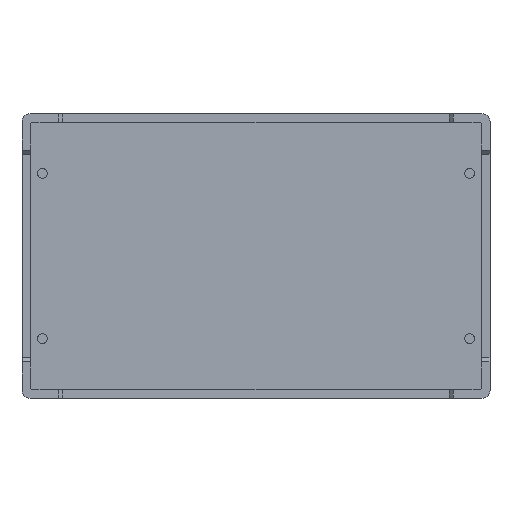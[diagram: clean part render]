
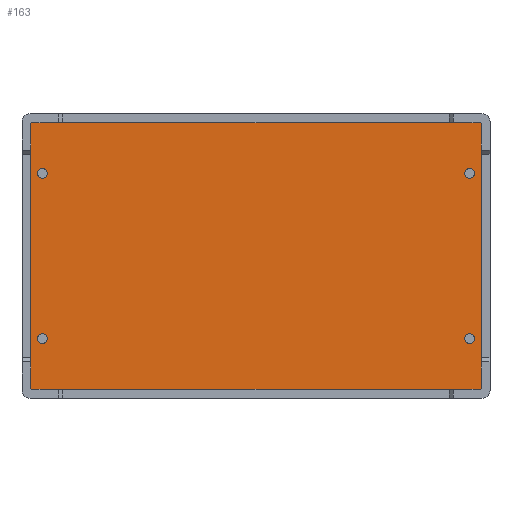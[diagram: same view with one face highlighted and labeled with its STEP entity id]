
A CAD part, front view. The second image highlights one B-rep face of the part: STEP entity #163.
In plain terms, the highlighted planar face has unit normal (0, -1, 0).
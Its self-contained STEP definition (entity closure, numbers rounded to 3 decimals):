
#16 = ORIENTED_EDGE ( 'NONE', *, *, #227, .F. ) ;
#29 = ORIENTED_EDGE ( 'NONE', *, *, #3202, .F. ) ;
#40 = EDGE_CURVE ( 'NONE', #2959, #2836, #873, .T. ) ;
#48 = ORIENTED_EDGE ( 'NONE', *, *, #235, .F. ) ;
#54 = ORIENTED_EDGE ( 'NONE', *, *, #245, .F. ) ;
#91 = EDGE_CURVE ( 'NONE', #3083, #2740, #677, .T. ) ;
#95 = CARTESIAN_POINT ( 'NONE',  ( -26.25, 1., -9.55 ) ) ;
#122 = ORIENTED_EDGE ( 'NONE', *, *, #252, .F. ) ;
#131 = ORIENTED_EDGE ( 'NONE', *, *, #1310, .F. ) ;
#140 = ORIENTED_EDGE ( 'NONE', *, *, #259, .F. ) ;
#149 = EDGE_CURVE ( 'NONE', #3212, #2975, #287, .T. ) ;
#163 = ADVANCED_FACE ( 'NONE', ( #221, #191, #205, #199, #300 ), #1407, .T. ) ;
#181 = ORIENTED_EDGE ( 'NONE', *, *, #4191, .F. ) ;
#191 = FACE_BOUND ( 'NONE', #1534, .T. ) ;
#195 = EDGE_CURVE ( 'NONE', #3411, #2372, #4214, .T. ) ;
#199 = FACE_BOUND ( 'NONE', #1602, .T. ) ;
#201 = ORIENTED_EDGE ( 'NONE', *, *, #195, .T. ) ;
#205 = FACE_BOUND ( 'NONE', #1621, .T. ) ;
#210 = ORIENTED_EDGE ( 'NONE', *, *, #272, .T. ) ;
#214 = AXIS2_PLACEMENT_3D ( 'NONE', #3276, #3012, #2941 ) ;
#217 = ORIENTED_EDGE ( 'NONE', *, *, #149, .T. ) ;
#221 = FACE_BOUND ( 'NONE', #1556, .T. ) ;
#227 = EDGE_CURVE ( 'NONE', #4279, #4048, #3622, .T. ) ;
#235 = EDGE_CURVE ( 'NONE', #3699, #4245, #3457, .T. ) ;
#245 = EDGE_CURVE ( 'NONE', #4245, #3699, #3717, .T. ) ;
#252 = EDGE_CURVE ( 'NONE', #4005, #3943, #3077, .T. ) ;
#256 = ORIENTED_EDGE ( 'NONE', *, *, #279, .T. ) ;
#259 = EDGE_CURVE ( 'NONE', #4313, #4310, #2901, .T. ) ;
#267 = ORIENTED_EDGE ( 'NONE', *, *, #91, .T. ) ;
#272 = EDGE_CURVE ( 'NONE', #2372, #3212, #2489, .T. ) ;
#273 = ORIENTED_EDGE ( 'NONE', *, *, #285, .T. ) ;
#278 = ORIENTED_EDGE ( 'NONE', *, *, #40, .T. ) ;
#279 = EDGE_CURVE ( 'NONE', #2975, #3083, #2398, .T. ) ;
#283 = ORIENTED_EDGE ( 'NONE', *, *, #294, .T. ) ;
#285 = EDGE_CURVE ( 'NONE', #2740, #2959, #2603, .T. ) ;
#287 = LINE ( 'NONE', #1497, #293 ) ;
#293 = VECTOR ( 'NONE', #1491, 1000. ) ;
#294 = EDGE_CURVE ( 'NONE', #2836, #3411, #2235, .T. ) ;
#300 = FACE_OUTER_BOUND ( 'NONE', #1405, .T. ) ;
#324 = CARTESIAN_POINT ( 'NONE',  ( 26.25, 1., -10.75 ) ) ;
#329 = AXIS2_PLACEMENT_3D ( 'NONE', #3491, #1507, #3798 ) ;
#394 = AXIS2_PLACEMENT_3D ( 'NONE', #4342, #4277, #4044 ) ;
#399 = CARTESIAN_POINT ( 'NONE',  ( -26.25, 1., 9.55 ) ) ;
#534 = VECTOR ( 'NONE', #2204, 1000. ) ;
#677 = LINE ( 'NONE', #2452, #534 ) ;
#737 = AXIS2_PLACEMENT_3D ( 'NONE', #2211, #2177, #2091 ) ;
#761 = AXIS2_PLACEMENT_3D ( 'NONE', #1500, #1495, #1025 ) ;
#810 = CARTESIAN_POINT ( 'NONE',  ( 27.55, 1., 16.4 ) ) ;
#815 = CARTESIAN_POINT ( 'NONE',  ( -27.55, 1., 16.3 ) ) ;
#816 = VECTOR ( 'NONE', #1505, 1000. ) ;
#828 = CARTESIAN_POINT ( 'NONE',  ( 27.65, 1., -16.3 ) ) ;
#866 = DIRECTION ( 'NONE',  ( 0., 0., -1. ) ) ;
#873 = LINE ( 'NONE', #1849, #816 ) ;
#897 = CARTESIAN_POINT ( 'NONE',  ( -26.25, 1., -10.75 ) ) ;
#903 = DIRECTION ( 'NONE',  ( 0., -1., 0. ) ) ;
#915 = CARTESIAN_POINT ( 'NONE',  ( -27.65, 1., 16.4 ) ) ;
#1025 = DIRECTION ( 'NONE',  ( 0., 0., -1. ) ) ;
#1064 = CARTESIAN_POINT ( 'NONE',  ( -27.65, 1., 16.3 ) ) ;
#1226 = AXIS2_PLACEMENT_3D ( 'NONE', #815, #4488, #4463 ) ;
#1310 = EDGE_CURVE ( 'NONE', #3943, #4005, #1937, .T. ) ;
#1338 = DIRECTION ( 'NONE',  ( 0., 0., -1. ) ) ;
#1389 = DIRECTION ( 'NONE',  ( 0., 0., -1. ) ) ;
#1405 = EDGE_LOOP ( 'NONE', ( #201, #210, #217, #256, #267, #273, #278, #283 ) ) ;
#1407 = PLANE ( 'NONE',  #2664 ) ;
#1427 = CARTESIAN_POINT ( 'NONE',  ( 0., 1., 0. ) ) ;
#1434 = CARTESIAN_POINT ( 'NONE',  ( 26.25, 1., 9.55 ) ) ;
#1444 = DIRECTION ( 'NONE',  ( 0., -1., 0. ) ) ;
#1491 = DIRECTION ( 'NONE',  ( 1., 0., 0. ) ) ;
#1495 = DIRECTION ( 'NONE',  ( 0., -1., 0. ) ) ;
#1497 = CARTESIAN_POINT ( 'NONE',  ( -27.65, 1., -16.4 ) ) ;
#1500 = CARTESIAN_POINT ( 'NONE',  ( -26.25, 1., -10.15 ) ) ;
#1505 = DIRECTION ( 'NONE',  ( -1., 0., 0. ) ) ;
#1507 = DIRECTION ( 'NONE',  ( 0., -1., 0. ) ) ;
#1528 = CARTESIAN_POINT ( 'NONE',  ( 26.25, 1., 10.75 ) ) ;
#1534 = EDGE_LOOP ( 'NONE', ( #48, #54 ) ) ;
#1549 = AXIS2_PLACEMENT_3D ( 'NONE', #3472, #3337, #3138 ) ;
#1556 = EDGE_LOOP ( 'NONE', ( #16, #29 ) ) ;
#1600 = DIRECTION ( 'NONE',  ( 0., -1., 0. ) ) ;
#1602 = EDGE_LOOP ( 'NONE', ( #140, #181 ) ) ;
#1621 = EDGE_LOOP ( 'NONE', ( #122, #131 ) ) ;
#1691 = CARTESIAN_POINT ( 'NONE',  ( 27.55, 1., -16.3 ) ) ;
#1849 = CARTESIAN_POINT ( 'NONE',  ( 27.65, 1., 16.4 ) ) ;
#1937 = CIRCLE ( 'NONE', #737, 0.6 ) ;
#2091 = DIRECTION ( 'NONE',  ( 0., 0., -1. ) ) ;
#2177 = DIRECTION ( 'NONE',  ( 0., -1., 0. ) ) ;
#2204 = DIRECTION ( 'NONE',  ( 0., 0., 1. ) ) ;
#2211 = CARTESIAN_POINT ( 'NONE',  ( -26.25, 1., -10.15 ) ) ;
#2235 = CIRCLE ( 'NONE', #1226, 0.1 ) ;
#2271 = CARTESIAN_POINT ( 'NONE',  ( 26.25, 1., -9.55 ) ) ;
#2329 = CIRCLE ( 'NONE', #329, 0.6 ) ;
#2332 = AXIS2_PLACEMENT_3D ( 'NONE', #2765, #2679, #2411 ) ;
#2349 = CARTESIAN_POINT ( 'NONE',  ( -27.55, 1., -16.4 ) ) ;
#2372 = VERTEX_POINT ( 'NONE', #2533 ) ;
#2398 = CIRCLE ( 'NONE', #4142, 0.1 ) ;
#2411 = DIRECTION ( 'NONE',  ( 0., 0., -1. ) ) ;
#2452 = CARTESIAN_POINT ( 'NONE',  ( 27.65, 1., -16.4 ) ) ;
#2489 = CIRCLE ( 'NONE', #3351, 0.1 ) ;
#2533 = CARTESIAN_POINT ( 'NONE',  ( -27.65, 1., -16.3 ) ) ;
#2603 = CIRCLE ( 'NONE', #394, 0.1 ) ;
#2607 = DIRECTION ( 'NONE',  ( 0., 0., -1. ) ) ;
#2615 = DIRECTION ( 'NONE',  ( 0., -1., 0. ) ) ;
#2628 = CARTESIAN_POINT ( 'NONE',  ( -26.25, 1., 10.75 ) ) ;
#2642 = CARTESIAN_POINT ( 'NONE',  ( 26.25, 1., -10.15 ) ) ;
#2664 = AXIS2_PLACEMENT_3D ( 'NONE', #1427, #1444, #1389 ) ;
#2679 = DIRECTION ( 'NONE',  ( 0., -1., 0. ) ) ;
#2740 = VERTEX_POINT ( 'NONE', #3236 ) ;
#2765 = CARTESIAN_POINT ( 'NONE',  ( 26.25, 1., 10.15 ) ) ;
#2836 = VERTEX_POINT ( 'NONE', #4433 ) ;
#2901 = CIRCLE ( 'NONE', #1549, 0.6 ) ;
#2941 = DIRECTION ( 'NONE',  ( 0., 0., -1. ) ) ;
#2959 = VERTEX_POINT ( 'NONE', #810 ) ;
#2975 = VERTEX_POINT ( 'NONE', #3583 ) ;
#2980 = DIRECTION ( 'NONE',  ( 0., 0., -1. ) ) ;
#3012 = DIRECTION ( 'NONE',  ( 0., -1., 0. ) ) ;
#3040 = CARTESIAN_POINT ( 'NONE',  ( 26.25, 1., 10.15 ) ) ;
#3051 = AXIS2_PLACEMENT_3D ( 'NONE', #3040, #903, #3338 ) ;
#3076 = DIRECTION ( 'NONE',  ( 0., -1., 0. ) ) ;
#3077 = CIRCLE ( 'NONE', #761, 0.6 ) ;
#3083 = VERTEX_POINT ( 'NONE', #828 ) ;
#3114 = CARTESIAN_POINT ( 'NONE',  ( -27.55, 1., -16.3 ) ) ;
#3138 = DIRECTION ( 'NONE',  ( 0., 0., -1. ) ) ;
#3202 = EDGE_CURVE ( 'NONE', #4048, #4279, #4469, .T. ) ;
#3212 = VERTEX_POINT ( 'NONE', #2349 ) ;
#3236 = CARTESIAN_POINT ( 'NONE',  ( 27.65, 1., 16.3 ) ) ;
#3276 = CARTESIAN_POINT ( 'NONE',  ( 26.25, 1., -10.15 ) ) ;
#3337 = DIRECTION ( 'NONE',  ( 0., -1., 0. ) ) ;
#3338 = DIRECTION ( 'NONE',  ( 0., 0., -1. ) ) ;
#3351 = AXIS2_PLACEMENT_3D ( 'NONE', #3114, #3076, #2980 ) ;
#3411 = VERTEX_POINT ( 'NONE', #1064 ) ;
#3429 = AXIS2_PLACEMENT_3D ( 'NONE', #2642, #2615, #2607 ) ;
#3457 = CIRCLE ( 'NONE', #3429, 0.6 ) ;
#3472 = CARTESIAN_POINT ( 'NONE',  ( -26.25, 1., 10.15 ) ) ;
#3491 = CARTESIAN_POINT ( 'NONE',  ( -26.25, 1., 10.15 ) ) ;
#3583 = CARTESIAN_POINT ( 'NONE',  ( 27.55, 1., -16.4 ) ) ;
#3622 = CIRCLE ( 'NONE', #2332, 0.6 ) ;
#3699 = VERTEX_POINT ( 'NONE', #2271 ) ;
#3717 = CIRCLE ( 'NONE', #214, 0.6 ) ;
#3798 = DIRECTION ( 'NONE',  ( 0., 0., -1. ) ) ;
#3943 = VERTEX_POINT ( 'NONE', #897 ) ;
#4005 = VERTEX_POINT ( 'NONE', #95 ) ;
#4044 = DIRECTION ( 'NONE',  ( 0., 0., -1. ) ) ;
#4048 = VERTEX_POINT ( 'NONE', #1434 ) ;
#4142 = AXIS2_PLACEMENT_3D ( 'NONE', #1691, #1600, #1338 ) ;
#4191 = EDGE_CURVE ( 'NONE', #4310, #4313, #2329, .T. ) ;
#4214 = LINE ( 'NONE', #915, #4298 ) ;
#4245 = VERTEX_POINT ( 'NONE', #324 ) ;
#4277 = DIRECTION ( 'NONE',  ( 0., -1., 0. ) ) ;
#4279 = VERTEX_POINT ( 'NONE', #1528 ) ;
#4298 = VECTOR ( 'NONE', #866, 1000. ) ;
#4310 = VERTEX_POINT ( 'NONE', #399 ) ;
#4313 = VERTEX_POINT ( 'NONE', #2628 ) ;
#4342 = CARTESIAN_POINT ( 'NONE',  ( 27.55, 1., 16.3 ) ) ;
#4433 = CARTESIAN_POINT ( 'NONE',  ( -27.55, 1., 16.4 ) ) ;
#4463 = DIRECTION ( 'NONE',  ( 0., 0., -1. ) ) ;
#4469 = CIRCLE ( 'NONE', #3051, 0.6 ) ;
#4488 = DIRECTION ( 'NONE',  ( 0., -1., 0. ) ) ;
